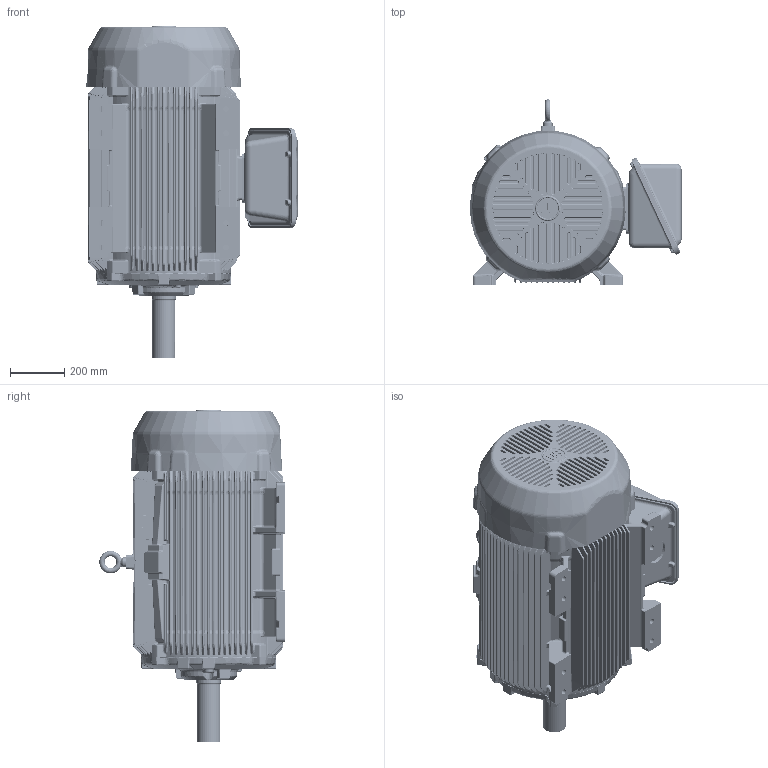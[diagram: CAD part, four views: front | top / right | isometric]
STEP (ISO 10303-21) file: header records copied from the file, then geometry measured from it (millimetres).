
FILE_DESCRIPTION((''),'2;1');
FILE_NAME('447_3D_ASM_ASM','2018-03-19T',('EMD2341'),('Nidec Motor Corporation'),'CREO PARAMETRIC BY PTC INC, 2017170','CREO PARAMETRIC BY PTC INC, 2017170','');
FILE_SCHEMA(('CONFIG_CONTROL_DESIGN'));
Length unit declared in the file: inch
Products named in the file (10): 447_FOOTED_FRAME; 440_DE_BRKT; 440_CAST_FCVR; 440_CAST_GSK_OBB; 0011046; 440_T; 440_OBB_NEMA; 440_CAST_GSK_OBC; 440_CAST_OBC; 447_3D_ASM_ASM
Assembly tree (9 placements, depth 2):
  447_3D_ASM_ASM
    447_FOOTED_FRAME
    440_DE_BRKT
    440_CAST_FCVR
    440_CAST_GSK_OBB
    0011046
    440_T
    440_OBB_NEMA
    440_CAST_GSK_OBC
    440_CAST_OBC
Bounding box: 778.3 x 681.1 x 1219.2 mm (x, y, z)
Volume: 233360667.8 mm3; surface area: 6773569.6 mm2
Topology: 9 solids, 9 shells, 6497 faces, 14887 edges, 8481 vertices
Faces by surface type: bspline 2821, cylinder 1316, plane 1154, torus 490, extrusion 460, cone 164, sphere 92
Entity records: 297216 total; most frequent: CARTESIAN_POINT 171040, ORIENTED_EDGE 29774, DIRECTION 20594, EDGE_CURVE 14887, VERTEX_POINT 8481, AXIS2_PLACEMENT_3D 7732, EDGE_LOOP 6598, FACE_OUTER_BOUND 6497
